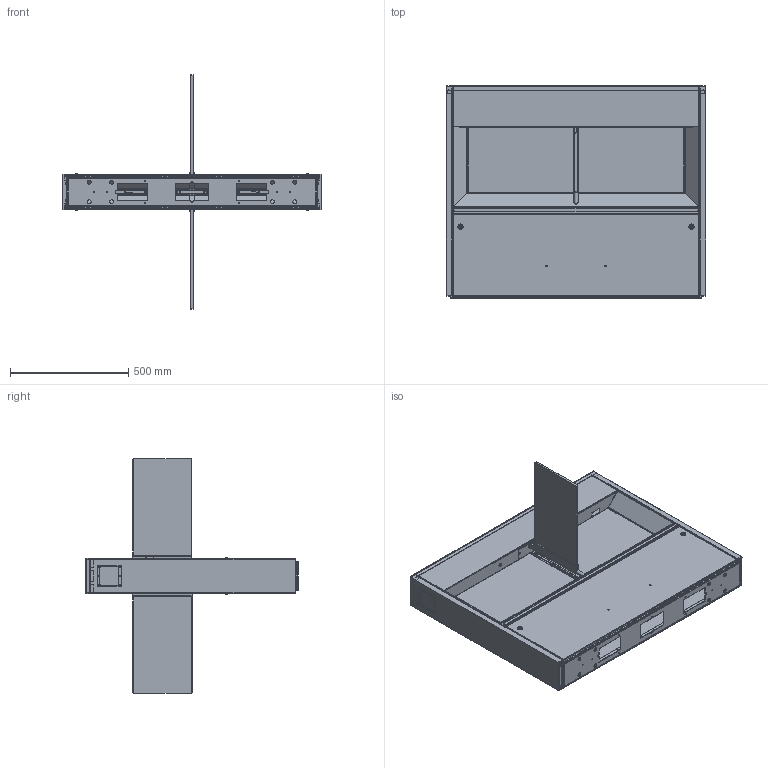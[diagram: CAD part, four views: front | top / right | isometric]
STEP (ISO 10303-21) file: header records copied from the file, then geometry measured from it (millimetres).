
FILE_DESCRIPTION (( 'STEP AP214' ), '1' );
FILE_NAME ('ライトゲート_センター【ワイドワイド】.STEP', '2023-02-21T00:36:15', ( 'cadcl' ), ( 'Hewlett-Packard Company' ), 'SwSTEP 2.0', 'SolidWorks 2022', '' );
FILE_SCHEMA (( 'AUTOMOTIVE_DESIGN' ));
Length unit declared in the file: millimetre
Products named in the file (49): 301-06197-00_施錠; 201-06290-21; Z02-00150-00_取付時:t1.5mm; 201-06291-28_デフォルト; 201-06292-73; 201-06290-15_面発光なし; 201-06291-51; 201-06292-33; 201-06292-35; 201-06292-44; 201-06292-61; Z03-00314-00; Z07-00045-00_１．０：１．６; 201-06291-00; 201-06290-05; 201-06290-17; 201-06291-31; 201-06290-00; 201-06292-32; 201-06291-30; 201-06295-62; 201-06292-34; 201-06291-29_デフォルト; 201-06292-29; 201-06291-19; 201-06291-02; 201-06295-61; 201-06295-29; 301-06197-01_施錠; 201-06291-75_閉状態; 201-06292-90; 201-06292-36; Z05-00032-00; 201-06295-58; 201-06292-56; 201-06292-31; 201-06292-59; 201-06291-01; 201-05997-02; 201-06291-58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
Assembly tree (72 placements, depth 5):
  201-06290-21
  ライトゲート_センター【ワイドワイド】
    201-06292-33
      201-06292-56
        201-06291-02
          201-06291-00
          201-06291-01
      201-06292-29
        201-06292-61
        201-06290-01
      201-06292-72
        201-06292-73
        201-06290-01
      201-06295-23  x2
        201-06295-54
        201-06290-00
        Z07-00045-00_１．０：１．６
      201-06291-19  x2
        201-06295-29
        301-06197-00_施錠
        301-06197-01_施錠
      201-06291-31  x2
        201-06291-30
        Z02-00150-00_取付時:t1.5mm
      201-06292-34  x2
        201-06292-35
        Z02-00150-00_取付時:t1.5mm
      201-06292-32
        201-06292-31
      201-06291-75_閉状態  x2
        201-06292-90
          201-06292-36
          Z05-00032-00
        201-06295-58
          201-06291-51
      201-06291-28_デフォルト  x2
      201-06291-29_デフォルト  x2
      201-06291-58  x2
      Z03-00314-00  x4
    201-06291-35  x2
      201-06290-02
    201-06292-39  x2
      201-06290-17
        201-06290-15_面発光なし
    201-06292-44  x2
    201-06290-05  x2
    201-06295-61
      201-06291-78
    201-06295-62
      201-06292-59
    201-06292-59
    201-06291-78
    201-05997-02  x2
Bounding box: 1100 x 900 x 992 mm (x, y, z)
Volume: 7933517 mm3; surface area: 7141405 mm2
Topology: 67 solids, 67 shells, 4397 faces, 11289 edges, 7062 vertices
Faces by surface type: plane 2776, cylinder 1309, cone 132, bspline 116, torus 48, sphere 16
Entity records: 82415 total; most frequent: CARTESIAN_POINT 16450, ORIENTED_EDGE 13314, DIRECTION 12987, EDGE_CURVE 6657, LINE 4835, VECTOR 4835, VERTEX_POINT 4189, AXIS2_PLACEMENT_3D 4076
